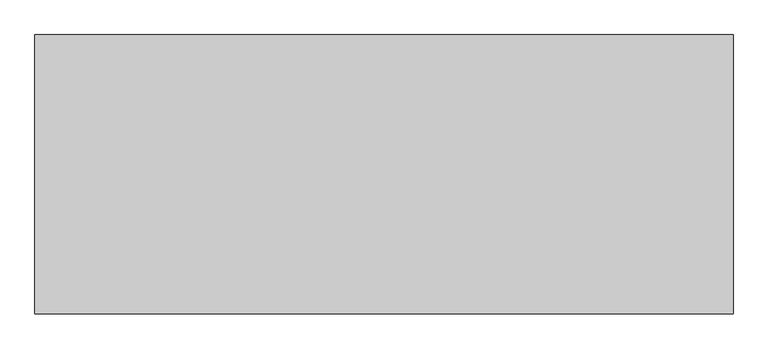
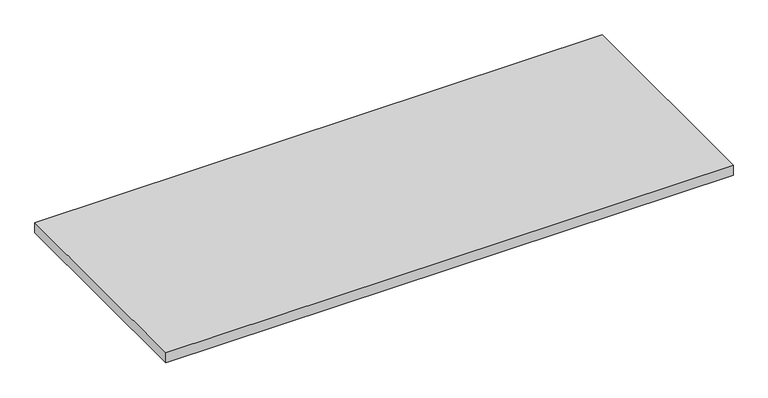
"""IFC4 building model written with IfcOpenShell, lengths in millimetres: furniture geometry, Geiger_GeigerOneCasegoods_CredenzaTopDeskHeightPlain : Laminate 60Wx 24Dx 1.125H."""

import ifcopenshell
import ifcopenshell.guid

model = None  # the IFC model being written
_history = None  # IfcOwnerHistory: only IFC2X3 demands one
_inside = {}  # id of a spatial element -> (the spatial element, [elements in it])
_under = {}  # id of a project, library or spatial element -> (it, [spatial elements below it])
_declared = {}  # id of a project -> (the project, [libraries it declares])
_typed = {}  # id of a type object -> (the type object, [elements of that type])
_made_of = {}  # id of a material, layer set ... -> (it, [elements and type objects made of it])


def new_model(schema):
    """Start an empty IFC model of exactly this schema.

    Asked for "IFC4X3", IfcOpenShell would pick the latest addendum, in which some entities
    have other attributes; the version numbers below select the first issue.
    IFC2X3 requires an IfcOwnerHistory on every rooted entity: one is made here for all.
    """
    global model, _history
    if schema == "IFC4X3":
        model = ifcopenshell.file(schema_version=(4, 3, 0, 0))
    else:
        model = ifcopenshell.file(schema=schema)
    _inside.clear()
    _under.clear()
    _declared.clear()
    _typed.clear()
    _made_of.clear()
    _history = None
    if model.schema == "IFC2X3":
        org = make("IfcOrganization", Name="unknown")
        user = make(
            "IfcPersonAndOrganization",
            ThePerson=make("IfcPerson", FamilyName="unknown"),
            TheOrganization=org,
        )
        app = make(
            "IfcApplication",
            ApplicationDeveloper=org,
            Version="unknown",
            ApplicationFullName="unknown",
            ApplicationIdentifier="unknown",
        )
        _history = make(
            "IfcOwnerHistory",
            OwningUser=user,
            OwningApplication=app,
            ChangeAction="ADDED",
            CreationDate=0,
        )
    return model


def make(cls, **values):
    """One entity of the class cls with the attributes given. An attribute that is None is left unset."""
    return model.create_entity(
        cls, **{name: value for name, value in values.items() if value is not None}
    )


def rooted(cls, **values):
    """An entity with a GlobalId (a new one), such as an element, a storey or a relation."""
    return make(cls, GlobalId=ifcopenshell.guid.new(), OwnerHistory=_history, **values)


def si_unit(unit_type, name, prefix=None):
    """IfcSIUnit, for example si_unit("LENGTHUNIT", "METRE", prefix="MILLI")."""
    return make("IfcSIUnit", UnitType=unit_type, Prefix=prefix, Name=name)


def assignment(units):
    """IfcUnitAssignment: the units of a project."""
    return None if units is None else make("IfcUnitAssignment", Units=units)


def point(xyz):
    """IfcCartesianPoint."""
    return None if xyz is None else make("IfcCartesianPoint", Coordinates=xyz)


def direction(xyz):
    """IfcDirection."""
    return None if xyz is None else make("IfcDirection", DirectionRatios=xyz)


def frame(location, z_axis=None, x_axis=None):
    """IfcAxis2Placement3D, a coordinate frame: its origin and axes. An axis left out is left unset."""
    return make(
        "IfcAxis2Placement3D",
        Location=point(location),
        Axis=direction(z_axis),
        RefDirection=direction(x_axis),
    )


def origin():
    """The frame at (0, 0, 0) with its axes left unset."""
    return frame((0.0, 0.0, 0.0))


def origin_with_axes():
    """The frame at (0, 0, 0) with the z axis (0, 0, 1) and the x axis (1, 0, 0) written out."""
    return frame((0.0, 0.0, 0.0), z_axis=(0.0, 0.0, 1.0), x_axis=(1.0, 0.0, 0.0))


def place(relative_to, where):
    """IfcLocalPlacement: puts the frame where relative to a parent placement (None: the world)."""
    return make(
        "IfcLocalPlacement", PlacementRelTo=relative_to, RelativePlacement=where
    )


def context(
    kind, dimensions, precision=None, world=None, true_north=None, identifier=None
):
    """IfcGeometricRepresentationContext, for example the 3D "Model" context."""
    return make(
        "IfcGeometricRepresentationContext",
        ContextIdentifier=identifier,
        ContextType=kind,
        CoordinateSpaceDimension=dimensions,
        Precision=precision,
        WorldCoordinateSystem=world,
        TrueNorth=true_north,
    )


def project(units=None, contexts=None):
    """IfcProject with its units and contexts."""
    return rooted(
        "IfcProject",
        Name="project",
        RepresentationContexts=contexts,
        UnitsInContext=assignment(units),
    )


def spatial(cls, under=None, at=None, **own):
    """A site, building, storey or space (cls), placed at a placement, below another one or the project."""
    s = rooted(cls, ObjectPlacement=at, **own)
    if under is not None:
        _under.setdefault(under.id(), (under, []))[1].append(s)
    return s


def polyline(points):
    """IfcPolyline through the points."""
    return make("IfcPolyline", Points=[point(p) for p in points])


def outline(outer, holes=None, kind="AREA"):
    """IfcArbitraryClosedProfileDef: a profile drawn as a closed curve; with holes, ...WithVoids."""
    if holes is None:
        return make("IfcArbitraryClosedProfileDef", ProfileType=kind, OuterCurve=outer)
    return make(
        "IfcArbitraryProfileDefWithVoids",
        ProfileType=kind,
        OuterCurve=outer,
        InnerCurves=holes,
    )


def extrude(swept, where, along, depth):
    """IfcExtrudedAreaSolid: the profile swept, set in the frame where, extruded along a direction by depth."""
    return make(
        "IfcExtrudedAreaSolid",
        SweptArea=swept,
        Position=where,
        ExtrudedDirection=direction(along),
        Depth=depth,
    )


def shape(context_of_items, identifier, shape_type, items):
    """IfcShapeRepresentation: the items that make up one representation, for example the "Body"."""
    return make(
        "IfcShapeRepresentation",
        ContextOfItems=context_of_items,
        RepresentationIdentifier=identifier,
        RepresentationType=shape_type,
        Items=items,
    )


def source(mapping_origin, context_of_items, identifier, shape_type, items):
    """IfcRepresentationMap: a shape defined once, which mapped items show again and again."""
    return make(
        "IfcRepresentationMap",
        MappingOrigin=mapping_origin,
        MappedRepresentation=shape(context_of_items, identifier, shape_type, items),
    )


def transform(
    local_origin,
    x_axis=None,
    y_axis=None,
    z_axis=None,
    scale=None,
    scale2=None,
    scale3=None,
    uniform=True,
):
    """IfcCartesianTransformationOperator3D, or its non-uniform kind. x_axis, y_axis, z_axis: its Axis1, 2, 3."""
    if uniform:
        return make(
            "IfcCartesianTransformationOperator3D",
            Axis1=direction(x_axis),
            Axis2=direction(y_axis),
            LocalOrigin=point(local_origin),
            Scale=scale,
            Axis3=direction(z_axis),
        )
    return make(
        "IfcCartesianTransformationOperator3DnonUniform",
        Axis1=direction(x_axis),
        Axis2=direction(y_axis),
        LocalOrigin=point(local_origin),
        Scale=scale,
        Axis3=direction(z_axis),
        Scale2=scale2,
        Scale3=scale3,
    )


def mapped(mapping_source, mapping_target):
    """IfcMappedItem: shows the shape of a source again, moved by a transform."""
    return make(
        "IfcMappedItem", MappingSource=mapping_source, MappingTarget=mapping_target
    )


def made_of(thing, what):
    """Note that an element or type object is made of a material, layer set ...; save() writes the relation."""
    if what is not None:
        _made_of.setdefault(what.id(), (what, []))[1].append(thing)
    return thing


def element(
    cls,
    number,
    at=None,
    inside=None,
    cuts=None,
    type_object=None,
    material=None,
    context=None,
    identifier="Body",
    shape_type=None,
    held_by="IfcProductDefinitionShape",
    body=None,
    shapes=None,
    **own,
):
    """One element of the class cls, such as IfcWall. Its Tag is "e" and its number.

    at: its placement. inside: the storey or other place that contains it. cuts: it is an
    opening in that element (IfcRelVoidsElement). A single representation is given by context,
    identifier, shape_type and body (its items); several are given by shapes. held_by: the class
    of the entity that holds the representations. save() writes the other relations.
    """
    e = rooted(cls, Tag="e%d" % number, ObjectPlacement=at, **own)
    if body is not None:
        shapes = [shape(context, identifier, shape_type, body)]
    if shapes is not None:
        e.Representation = make(held_by, Representations=shapes)
    if inside is not None:
        _inside.setdefault(inside.id(), (inside, []))[1].append(e)
    if cuts is not None:
        rooted(
            "IfcRelVoidsElement", RelatingBuildingElement=cuts, RelatedOpeningElement=e
        )
    if type_object is not None:
        _typed.setdefault(type_object.id(), (type_object, []))[1].append(e)
    return made_of(e, material)


def aggregate(whole, parts):
    """IfcRelAggregates: a whole, such as a stair, and the parts it consists of."""
    return rooted("IfcRelAggregates", RelatingObject=whole, RelatedObjects=parts)


def save(model, path):
    """Write the relations noted so far, then the file.

    IfcRelAggregates (storeys below a building ...), IfcRelContainedInSpatialStructure (elements
    in a storey), IfcRelDefinesByType, IfcRelAssociatesMaterial and IfcRelDeclares: one each for
    every whole, place, type object, material and project.
    """
    for whole, parts in _under.values():
        aggregate(whole, parts)
    for where, things in _inside.values():
        rooted(
            "IfcRelContainedInSpatialStructure",
            RelatedElements=things,
            RelatingStructure=where,
        )
    for kind, things in _typed.values():
        rooted("IfcRelDefinesByType", RelatedObjects=things, RelatingType=kind)
    for what, things in _made_of.values():
        rooted("IfcRelAssociatesMaterial", RelatedObjects=things, RelatingMaterial=what)
    for by, libraries in _declared.values():
        rooted("IfcRelDeclares", RelatingContext=by, RelatedDefinitions=libraries)
    model.write(path)


def furniture_ac05d94e(model_context):
    return source(origin(), model_context, "Body", "SweptSolid", [
        extrude(outline(polyline([(1524.0, 0.0), (1524.0, -609.6), (0.0, -609.6), (0.0, 0.0), (1524.0, 0.0)])), origin_with_axes(), (0.0, 0.0, 1.0), 28.575),
    ])


if __name__ == "__main__":
    model = new_model("IFC4")
    model_context = context("Model", 3, world=origin())
    ifc_project = project(units=[si_unit("LENGTHUNIT", "METRE", prefix="MILLI")], contexts=[model_context])
    site = spatial("IfcSite", under=ifc_project)
    building = spatial("IfcBuilding", under=site)
    placement = place(None, origin())
    furniture_shape = furniture_ac05d94e(model_context)
    element("IfcFurniture", 1, ObjectType="Geiger_GeigerOneCasegoods_CredenzaTopDeskHeightPlain : Laminate 60Wx 24Dx 1.125H", at=placement, inside=building, context=model_context, shape_type="MappedRepresentation", body=[
        mapped(furniture_shape, transform((0.0, 0.0, 0.0), x_axis=(1.0, 0.0, 0.0), y_axis=(0.0, 1.0, 0.0), z_axis=(0.0, 0.0, 1.0))),
    ])
    save(model, "model.ifc")
